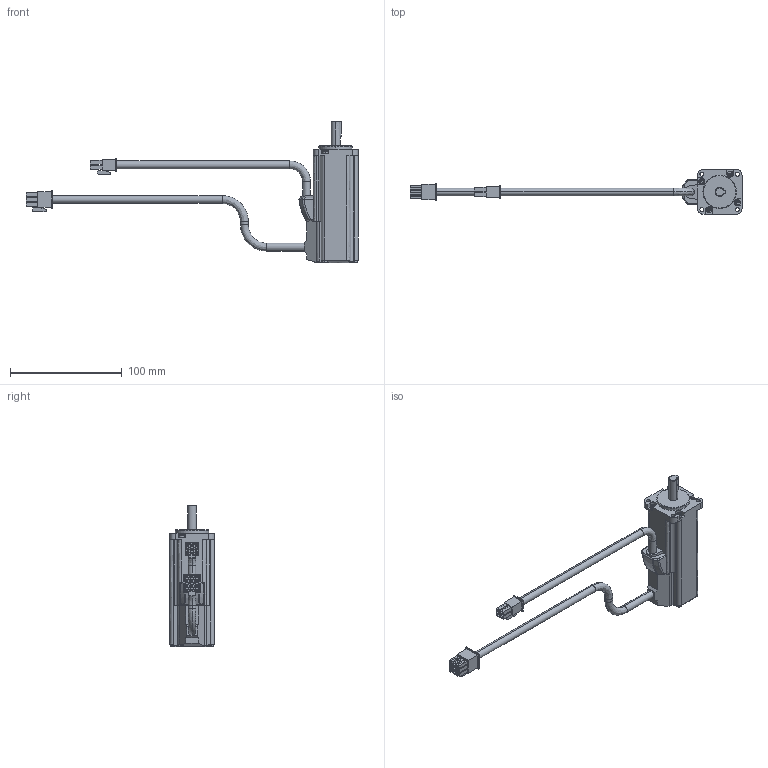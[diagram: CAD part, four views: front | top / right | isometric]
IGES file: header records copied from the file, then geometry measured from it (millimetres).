
Start section:  PTC IGES file: RSMZ-A8BA3xS.igs
Global section: file name: RSMZ-A8BA3xS.igs; native system: Pro/ENGINEER by Parametric Technology Corporation; preprocessor: 2004440; author: Administrator; organization: Unknown; date: 070904.190923; units: millimetre
Bounding box: 297.7 x 40 x 127.1 mm (x, y, z)
Volume: 173964.9 mm3; surface area: 35790.3 mm2
Topology: 1 solids, 1 shells, 463 faces, 1171 edges, 759 vertices
Faces by surface type: bspline 333, revolution 130
